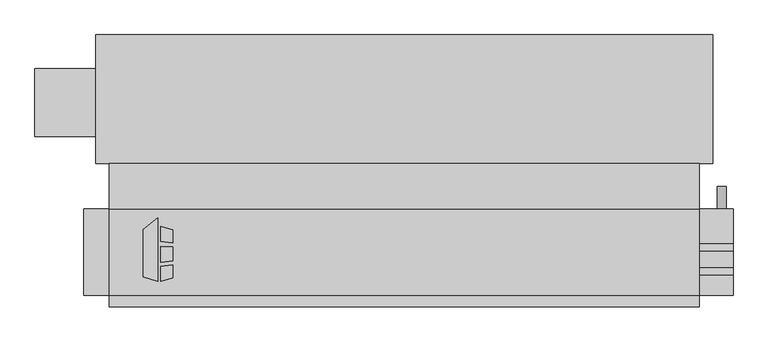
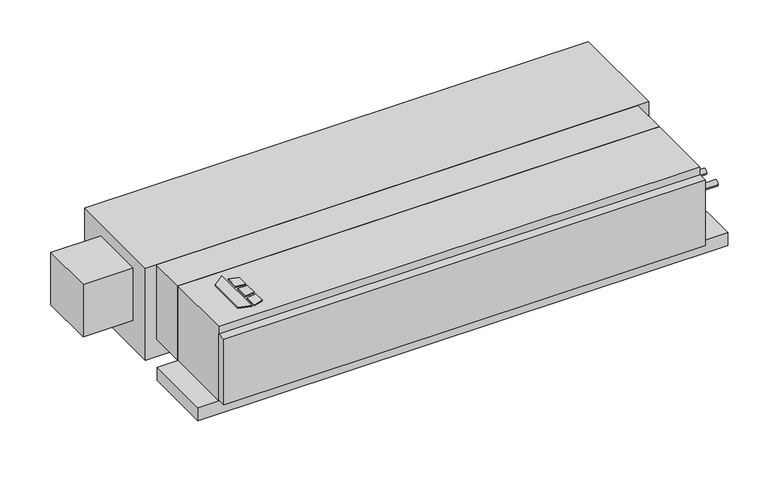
"""IFC4 building model written with IfcOpenShell, lengths in millimetres: proxy geometry, Concealed_Horizontal_Fan_Coil_Unit_With_Plenum_-_CPY_-_IEC_-_2-Pipe_Cool-EHeat_RH_2022 : Size 10 - 277v/60Hz/1Ph - 4 Row 8.0kW."""

from ifc_helpers import new_model, si_unit, point, frame, frame_2d, origin, origin_with_axes, place, context, project, spatial, polyline, circle_curve, trimmed, segment, composite_curve, outline, extrude, source, transform, mapped, element, save


def mechanical_equipment_2895ad52(model_context):
    return source(origin(), model_context, "Body", "SweptSolid", [
        extrude(outline(polyline([(-431.8, -186.6953476), (-399.2417033, -161.2580184), (-399.2417033, -303.2125), (-431.8, -292.9929201), (-431.8, -186.6953476)])), origin_with_axes(), (0.0, 0.0, 1.0), 3.175),
        extrude(outline(polyline([(-392.4833703, -214.567352), (-392.4833703, -180.0874379), (-366.4019761, -188.2740115), (-366.4019761, -217.7697446), (-392.4833703, -214.567352)])), origin_with_axes(), (0.0, 0.0, 1.0), 3.175),
        extrude(outline(polyline([(-366.4019761, -296.2240115), (-392.4833703, -303.2125), (-392.4833703, -269.9911996), (-366.4019761, -266.4493564), (-366.4019761, -296.2240115)])), origin_with_axes(), (0.0, 0.0, 1.0), 3.175),
        extrude(outline(polyline([(-366.4019761, -226.8513277), (-366.4019761, -258.101483), (-392.4833703, -260.842748), (-392.4833703, -224.9850378), (-366.4019761, -226.8513277)])), origin_with_axes(), (0.0, 0.0, 1.0), 3.175),
        extrude(outline(composite_curve([segment(trimmed(circle_curve(frame_2d((-280.9875, -104.775)), 7.9375), [point((-273.05, -104.775))], [point((-288.925, -104.775))], False, "CARTESIAN"), True, "CONTINUOUS"), segment(trimmed(circle_curve(frame_2d((-280.9875, -104.775)), 7.9375), [point((-288.925, -104.775))], [point((-273.05, -104.775))], False, "CARTESIAN"), True, "CONTINUOUS")], self_intersect=False)), frame((812.8, 0.0, 0.0), z_axis=(1.0, 0.0, 0.0), x_axis=(0.0, 1.0, 0.0)), (0.0, 0.0, 1.0), 76.2),
        extrude(outline(composite_curve([segment(trimmed(circle_curve(frame_2d((-227.0125, -104.775)), 7.9375), [point((-219.075, -104.775))], [point((-234.95, -104.775))], False, "CARTESIAN"), True, "CONTINUOUS"), segment(trimmed(circle_curve(frame_2d((-227.0125, -104.775)), 7.9375), [point((-234.95, -104.775))], [point((-219.075, -104.775))], False, "CARTESIAN"), True, "CONTINUOUS")], self_intersect=False)), frame((812.8, 0.0, 0.0), z_axis=(1.0, 0.0, 0.0), x_axis=(0.0, 1.0, 0.0)), (0.0, 0.0, 1.0), 76.2),
        extrude(outline(composite_curve([segment(trimmed(circle_curve(frame_2d((-241.3, 863.6)), 9.525), [point((-241.3, 854.075))], [point((-241.3, 873.125))], False, "CARTESIAN"), True, "CONTINUOUS"), segment(trimmed(circle_curve(frame_2d((-241.3, 863.6)), 9.525), [point((-241.3, 873.125))], [point((-241.3, 854.075))], False, "CARTESIAN"), True, "CONTINUOUS")], self_intersect=False)), frame((0.0, -141.2875, 0.0), z_axis=(0.0, 1.0, 0.0), x_axis=(0.0, 0.0, 1.0)), (0.0, 0.0, 1.0), 50.8),
        extrude(outline(polyline([(-508.0, -39.6875), (812.8, -39.6875), (812.8, -141.2875), (-508.0, -141.2875), (-508.0, -39.6875)])), frame((0.0, 0.0, -215.9), z_axis=(0.0, 0.0, 1.0), x_axis=(1.0, 0.0, 0.0)), (0.0, 0.0, 1.0), 215.9),
        extrude(outline(polyline([(812.8, -360.3625), (-508.0, -360.3625), (-508.0, -334.9625), (812.8, -334.9625), (812.8, -360.3625)])), frame((0.0, 0.0, -212.725), z_axis=(0.0, 0.0, 1.0), x_axis=(1.0, 0.0, 0.0)), (0.0, 0.0, 1.0), 190.5),
        extrude(outline(polyline([(-674.6875, 20.6375), (-674.6875, 173.0375), (-538.1625, 173.0375), (-538.1625, 20.6375), (-674.6875, 20.6375)])), frame((0.0, 0.0, -187.325), z_axis=(0.0, 0.0, 1.0), x_axis=(1.0, 0.0, 0.0)), (0.0, 0.0, 1.0), 152.4),
        extrude(outline(polyline([(-538.1625, 249.2375), (842.9625, 249.2375), (842.9625, -39.6875), (-538.1625, -39.6875), (-538.1625, 249.2375)])), frame((0.0, 0.0, -266.7), z_axis=(0.0, 0.0, 1.0), x_axis=(1.0, 0.0, 0.0)), (0.0, 0.0, 1.0), 266.7),
        extrude(outline(polyline([(812.8, -141.2875), (812.8, -334.9625), (-508.0, -334.9625), (-508.0, -141.2875), (812.8, -141.2875)])), frame((0.0, 0.0, -215.9), z_axis=(0.0, 0.0, 1.0), x_axis=(1.0, 0.0, 0.0)), (0.0, 0.0, 1.0), 215.9),
        extrude(outline(polyline([(889.0, -141.2875), (889.0, -334.9625), (-565.15, -334.9625), (-565.15, -141.2875), (889.0, -141.2875)])), frame((0.0, 0.0, -254.0), z_axis=(0.0, 0.0, 1.0), x_axis=(1.0, 0.0, 0.0)), (0.0, 0.0, 1.0), 38.1),
    ])


if __name__ == "__main__":
    model = new_model("IFC4")
    model_context = context("Model", 3, world=origin())
    ifc_project = project(units=[si_unit("LENGTHUNIT", "METRE", prefix="MILLI")], contexts=[model_context])
    site = spatial("IfcSite", under=ifc_project)
    building = spatial("IfcBuilding", under=site)
    placement = place(None, origin())
    mechanical_equipment_shape = mechanical_equipment_2895ad52(model_context)
    element("IfcBuildingElementProxy", 1, Name="Concealed_Horizontal_Fan_Coil_Unit_With_Plenum_-_CPY_-_IEC_-_2-Pipe_Cool-EHeat_RH_2022 : Size 10 - 277v/60Hz/1Ph - 4 Row 8.0kW", ObjectType="Concealed_Horizontal_Fan_Coil_Unit_With_Plenum_-_CPY_-_IEC_-_2-Pipe_Cool-EHeat_RH_2022 : Size 10 - 277v/60Hz/1Ph - 4 Row 8.0kW", at=placement, inside=building, context=model_context, shape_type="MappedRepresentation", body=[
        mapped(mechanical_equipment_shape, transform((0.0, 0.0, 0.0), x_axis=(1.0, 0.0, 0.0), y_axis=(0.0, 1.0, 0.0), z_axis=(0.0, 0.0, 1.0))),
    ])
    save(model, "model.ifc")
